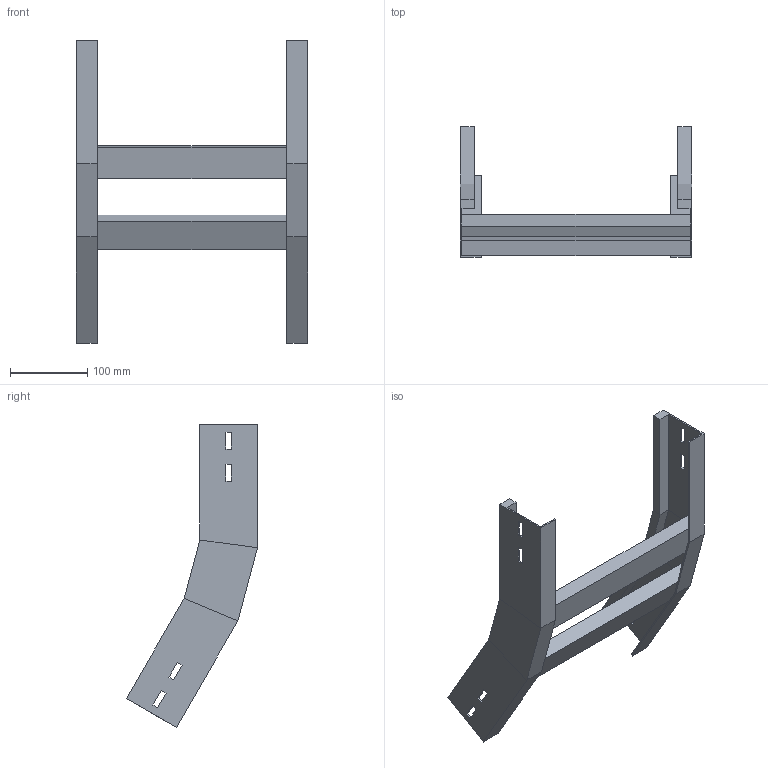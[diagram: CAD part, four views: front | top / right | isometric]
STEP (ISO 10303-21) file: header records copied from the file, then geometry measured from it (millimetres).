
FILE_DESCRIPTION (( 'STEP AP214' ), '1' );
FILE_NAME ('A2X32B3C300XX.step', '2025-03-20T10:01:27', ( '' ), ( '' ), 'SwSTEP 2.0', 'SolidWorks 2023', '' );
FILE_SCHEMA (( 'AUTOMOTIVE_DESIGN' ));
Length unit declared in the file: millimetre
Products named in the file (3): TRAVERSINO_300; A2X32B3C300XX; LONGH.SALITA_30°_H75_R300
Assembly tree (4 placements, depth 2):
  A2X32B3C300XX
    LONGH.SALITA_30°_H75_R300  x2
    TRAVERSINO_300  x2
Bounding box: 300 x 170.24 x 392.95 mm (x, y, z)
Volume: 784602.7 mm3; surface area: 263597.9 mm2
Topology: 4 solids, 4 shells, 96 faces, 232 edges, 144 vertices
Faces by surface type: plane 96
Entity records: 1472 total; most frequent: CARTESIAN_POINT 243, ORIENTED_EDGE 232, DIRECTION 226, EDGE_CURVE 116, LINE 116, VECTOR 116, VERTEX_POINT 72, EDGE_LOOP 56
